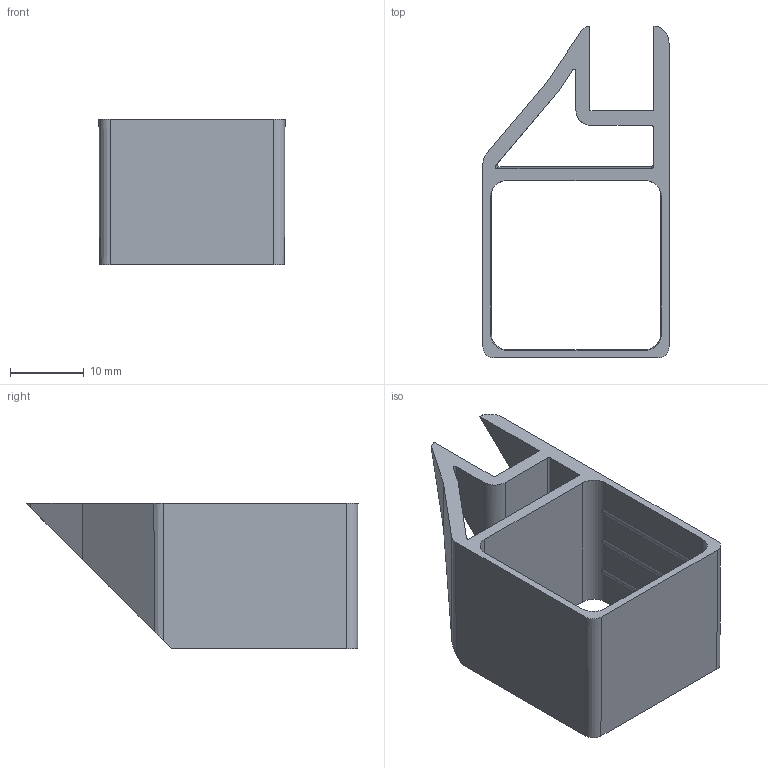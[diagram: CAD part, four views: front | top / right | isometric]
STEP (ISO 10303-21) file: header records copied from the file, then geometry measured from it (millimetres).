
FILE_DESCRIPTION (( 'STEP AP214' ), '1' );
FILE_NAME ('L15884A.step', '2024-12-03T16:20:49', ( '' ), ( '' ), 'SwSTEP 2.0', 'SolidWorks 2023', '' );
FILE_SCHEMA (( 'AUTOMOTIVE_DESIGN' ));
Length unit declared in the file: millimetre
Products named in the file (1): L15884A
Bounding box: 25.3 x 45.15 x 19.85 mm (x, y, z)
Volume: 3577.8 mm3; surface area: 5373.3 mm2
Topology: 1 solids, 1 shells, 65 faces, 165 edges, 102 vertices
Faces by surface type: plane 30, cylinder 24, bspline 6, cone 5
Entity records: 2105 total; most frequent: CARTESIAN_POINT 546, ORIENTED_EDGE 330, DIRECTION 310, EDGE_CURVE 165, VECTOR 106, LINE 106, VERTEX_POINT 102, AXIS2_PLACEMENT_3D 102
